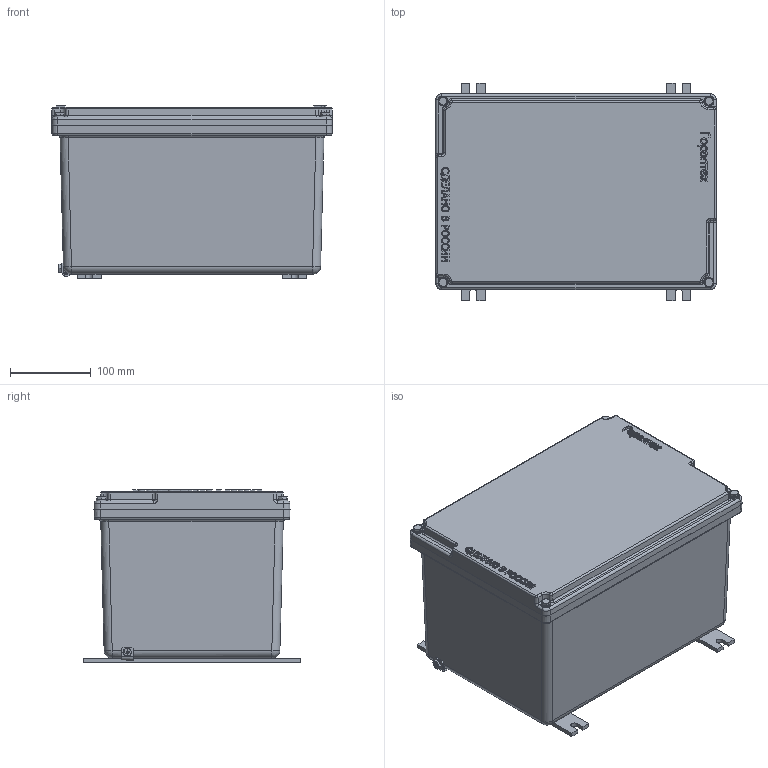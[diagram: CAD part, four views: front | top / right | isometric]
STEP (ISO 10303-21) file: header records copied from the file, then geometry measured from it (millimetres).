
FILE_DESCRIPTION((''),'2;1');
FILE_NAME('C:\Users\A.Yu.Kozyrkov\Desktop\Готовый\КСРВ342421.stp','2019-11-28T13:55:25',('A.Yu.Kozyrkov'),(''),'Autodesk Inventor 2012','Autodesk Inventor 2012','');
FILE_SCHEMA(('AUTOMOTIVE_DESIGN { 1 0 10303 214 1 1 1 1 }'));
Length unit declared in the file: millimetre
Products named in the file (1): КСРВ342421
Bounding box: 348.16 x 270 x 214 mm (x, y, z)
Surface area: 804306.7 mm2 (no closed solid volume)
Topology: 0 solids, 19 shells, 1276 faces, 3164 edges, 1986 vertices
Faces by surface type: plane 481, bspline 421, cylinder 249, cone 82, torus 29, sphere 14
Full cylindrical faces by diameter (mm): 4.9 x11, 4.917 x1, 5 x4, 5.459 x4, 6 x5, 6.4 x4, 6.5 x5, 6.6 x4, 7.9 x1, 8 x4, 8.7 x4, 9 x4, 12 x4, 15.24 x4
Entity records: 49823 total; most frequent: CARTESIAN_POINT 21115, ORIENTED_EDGE 6062, DIRECTION 4660, EDGE_CURVE 3031, VERTEX_POINT 1957, VECTOR 1562, LINE 1562, AXIS2_PLACEMENT_3D 1549
